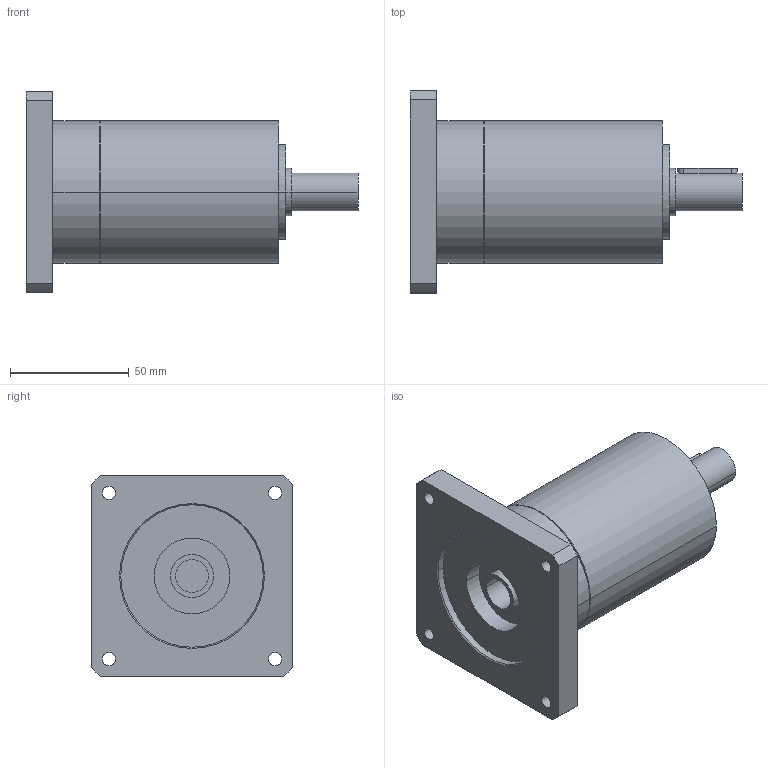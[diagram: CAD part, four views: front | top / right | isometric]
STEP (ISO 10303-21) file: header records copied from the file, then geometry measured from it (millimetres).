
FILE_DESCRIPTION(('CoCreate Modeling STEP Export'),'2;1');
FILE_NAME('GPR75_ig-9-12-16-20-24-30-36_16_B14_14_P33.stp','2014-08-25T16:03:42',(''),(''),'CoCreate Modeling STEP processor for AP214 (Solid Model)','CoCreate Modeling 16.00C 25-Feb-2009 (C) Parametric Technology GmbH','');
FILE_SCHEMA(('AUTOMOTIVE_DESIGN { 1 0 10303 214 1 1 1 1 }'));
Length unit declared in the file: millimetre
Products named in the file (2): GPR75_ig-9-12-16-20-24-30-36_16_B14_14_P33
Assembly tree (1 placements, depth 2):
  GPR75_ig-9-12-16-20-24-30-36_16_B14_14_P33
    GPR75_ig-9-12-16-20-24-30-36_16_B14_14_P33
Bounding box: 139.9 x 85 x 85 mm (x, y, z)
Volume: 338121.4 mm3; surface area: 42487.9 mm2
Topology: 1 solids, 1 shells, 72 faces, 186 edges, 128 vertices
Faces by surface type: cylinder 42, plane 22, cone 8
Entity records: 1949 total; most frequent: ORIENTED_EDGE 368, CARTESIAN_POINT 360, DIRECTION 268, EDGE_CURVE 184, VERTEX_POINT 128, AXIS2_PLACEMENT_3D 100, EDGE_LOOP 94, FACE_OUTER_BOUND 72
